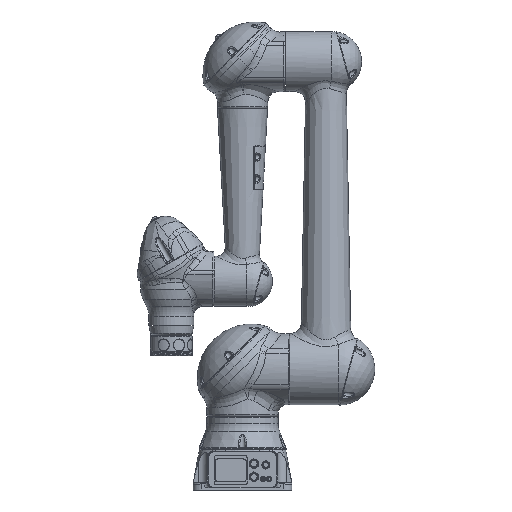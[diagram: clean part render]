
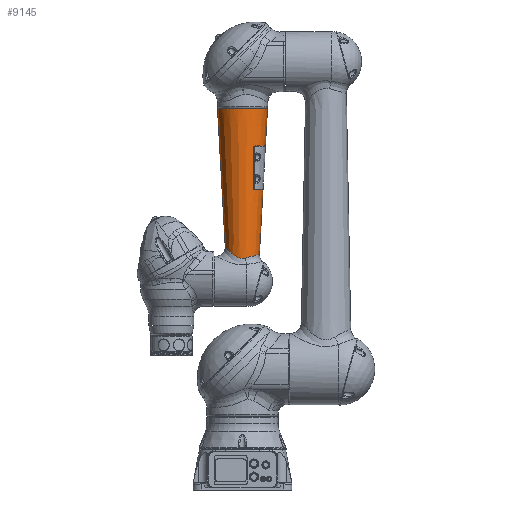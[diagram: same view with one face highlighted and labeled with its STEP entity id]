
A CAD part, left-side view. The second image highlights one B-rep face of the part: STEP entity #9145.
In plain terms, the highlighted conical face has half-angle 3.204 degrees and reference radius 57.382 mm.
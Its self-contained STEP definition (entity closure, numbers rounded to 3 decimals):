
#4328=CONICAL_SURFACE('',#37527,57.382,3.204);
#4438=(
BOUNDED_CURVE()
B_SPLINE_CURVE(3,(#89848,#89849,#89850,#89851,#89852,#89853,#89854,#89855,
#89856,#89857,#89858,#89859,#89860,#89861,#89862,#89863,#89864,#89865,#89866,
#89867,#89868,#89869,#89870,#89871,#89872,#89873,#89874,#89875,#89876,#89877,
#89878),.UNSPECIFIED.,.F.,.F.)
B_SPLINE_CURVE_WITH_KNOTS((4,1,1,1,1,1,1,1,1,1,1,1,1,1,1,1,1,1,1,1,1,1,
1,1,1,1,1,1,4),(0.,0.031,0.063,0.095,0.129,
0.164,0.202,0.241,0.284,0.329,
0.378,0.43,0.482,0.534,0.581,
0.624,0.662,0.696,0.726,0.753,
0.779,0.805,0.831,0.858,0.884,
0.91,0.937,0.967,1.),.UNSPECIFIED.)
CURVE()
GEOMETRIC_REPRESENTATION_ITEM()
RATIONAL_B_SPLINE_CURVE((1.185,1.185,1.185,
1.185,1.185,1.185,1.185,1.185,
1.185,1.185,1.185,1.185,1.185,
1.185,1.185,1.185,1.185,1.185,
1.185,1.185,1.185,1.185,1.185,
1.185,1.185,1.185,1.185,1.185,
1.185,1.185,1.185))
REPRESENTATION_ITEM('')
);
#6458=LINE('',#96099,#7565);
#6459=LINE('',#96100,#7566);
#6460=LINE('',#96104,#7567);
#7565=VECTOR('',#43291,1.);
#7566=VECTOR('',#43292,1.);
#7567=VECTOR('',#43295,1.);
#9145=ADVANCED_FACE('SREV27',(#11824),#4328,.F.);
#11824=FACE_OUTER_BOUND('',#13901,.T.);
#13901=EDGE_LOOP('',(#22124,#22125,#22126,#22127,#22128,#22129,#22130,#22131,
#22132,#22133,#22134));
#15937=CIRCLE('',#37524,52.242);
#15938=CIRCLE('',#37525,46.644);
#15939=CIRCLE('',#37526,57.);
#22124=ORIENTED_EDGE('',*,*,#32098,.T.);
#22125=ORIENTED_EDGE('',*,*,#32099,.F.);
#22126=ORIENTED_EDGE('',*,*,#32100,.F.);
#22127=ORIENTED_EDGE('',*,*,#32101,.F.);
#22128=ORIENTED_EDGE('',*,*,#32102,.F.);
#22129=ORIENTED_EDGE('',*,*,#32103,.T.);
#22130=ORIENTED_EDGE('',*,*,#31912,.F.);
#22131=ORIENTED_EDGE('',*,*,#31892,.F.);
#22132=ORIENTED_EDGE('',*,*,#32104,.F.);
#22133=ORIENTED_EDGE('',*,*,#32105,.F.);
#22134=ORIENTED_EDGE('',*,*,#32106,.T.);
#28057=VERTEX_POINT('',#89847);
#28058=VERTEX_POINT('',#89879);
#28068=VERTEX_POINT('',#90286);
#28178=VERTEX_POINT('',#96074);
#28179=VERTEX_POINT('',#96075);
#28180=VERTEX_POINT('',#96082);
#28181=VERTEX_POINT('',#96089);
#28182=VERTEX_POINT('',#96096);
#28183=VERTEX_POINT('',#96098);
#28184=VERTEX_POINT('',#96101);
#28185=VERTEX_POINT('',#96103);
#31892=EDGE_CURVE('B_SPLINE98',#28057,#28058,#4438,.T.);
#31912=EDGE_CURVE('B_SPLINE97',#28058,#28068,#35174,.T.);
#32098=EDGE_CURVE('ARC101',#28178,#28179,#15937,.T.);
#32099=EDGE_CURVE('B_SPLINE249',#28180,#28179,#35239,.T.);
#32100=EDGE_CURVE('B_SPLINE111',#28181,#28180,#35240,.T.);
#32101=EDGE_CURVE('B_SPLINE256',#28182,#28181,#35241,.T.);
#32102=EDGE_CURVE('ARC102',#28183,#28182,#15938,.T.);
#32103=EDGE_CURVE('LINE73',#28183,#28068,#6458,.T.);
#32104=EDGE_CURVE('LINE72',#28184,#28057,#6459,.T.);
#32105=EDGE_CURVE('ARC103',#28185,#28184,#15939,.T.);
#32106=EDGE_CURVE('LINE71',#28185,#28178,#6460,.T.);
#35174=B_SPLINE_CURVE_WITH_KNOTS('',3,(#90442,#90443,#90444,#90445,#90446,
#90447,#90448,#90449,#90450,#90451,#90452,#90453,#90454,#90455,#90456,#90457,
#90458,#90459,#90460),.UNSPECIFIED.,.F.,.F.,(4,1,1,1,1,1,1,1,1,1,1,1,1,
1,1,1,4),(0.,0.063,0.125,0.188,0.25,0.313,0.375,0.438,0.5,0.563,0.625,
0.688,0.75,0.813,0.875,0.938,1.),.UNSPECIFIED.);
#35239=B_SPLINE_CURVE_WITH_KNOTS('',3,(#96076,#96077,#96078,#96079,#96080,
#96081),.UNSPECIFIED.,.F.,.F.,(4,2,4),(0.,0.5,1.),.UNSPECIFIED.);
#35240=B_SPLINE_CURVE_WITH_KNOTS('',3,(#96083,#96084,#96085,#96086,#96087,
#96088),.UNSPECIFIED.,.F.,.F.,(4,1,1,4),(0.,0.333,0.667,
1.),.UNSPECIFIED.);
#35241=B_SPLINE_CURVE_WITH_KNOTS('',3,(#96090,#96091,#96092,#96093,#96094,
#96095),.UNSPECIFIED.,.F.,.F.,(4,2,4),(0.,0.5,1.),.UNSPECIFIED.);
#37524=AXIS2_PLACEMENT_3D('',#96073,#43287,#43288);
#37525=AXIS2_PLACEMENT_3D('',#96097,#43289,#43290);
#37526=AXIS2_PLACEMENT_3D('',#96102,#43293,#43294);
#37527=AXIS2_PLACEMENT_3D('',#96105,#43296,#43297);
#43287=DIRECTION('',(0.,0.,-1.));
#43288=DIRECTION('',(0.,-1.,0.));
#43289=DIRECTION('',(0.,0.,-1.));
#43290=DIRECTION('',(0.,-1.,0.));
#43291=DIRECTION('',(0.,0.056,-0.998));
#43292=DIRECTION('',(0.,-0.056,-0.998));
#43293=DIRECTION('',(0.,0.,-1.));
#43294=DIRECTION('',(0.,-1.,0.));
#43295=DIRECTION('',(0.,0.056,-0.998));
#43296=DIRECTION('',(0.,0.,1.));
#43297=DIRECTION('',(0.,-1.,0.));
#89847=CARTESIAN_POINT('',(0.,39.373,553.118));
#89848=CARTESIAN_POINT('',(0.,39.373,553.118));
#89849=CARTESIAN_POINT('',(-0.788,39.373,553.118));
#89850=CARTESIAN_POINT('',(-2.368,39.322,553.063));
#89851=CARTESIAN_POINT('',(-4.743,39.094,552.813));
#89852=CARTESIAN_POINT('',(-7.14,38.705,552.391));
#89853=CARTESIAN_POINT('',(-9.571,38.143,551.784));
#89854=CARTESIAN_POINT('',(-12.038,37.392,550.978));
#89855=CARTESIAN_POINT('',(-14.542,36.433,549.959));
#89856=CARTESIAN_POINT('',(-17.075,35.243,548.709));
#89857=CARTESIAN_POINT('',(-19.622,33.798,547.219));
#89858=CARTESIAN_POINT('',(-22.162,32.076,545.481));
#89859=CARTESIAN_POINT('',(-24.658,30.062,543.507));
#89860=CARTESIAN_POINT('',(-27.043,27.771,541.346));
#89861=CARTESIAN_POINT('',(-29.225,25.27,539.105));
#89862=CARTESIAN_POINT('',(-31.121,22.681,536.928));
#89863=CARTESIAN_POINT('',(-32.688,20.134,534.949));
#89864=CARTESIAN_POINT('',(-33.938,17.727,533.241));
#89865=CARTESIAN_POINT('',(-34.915,15.506,531.818));
#89866=CARTESIAN_POINT('',(-35.675,13.473,530.654));
#89867=CARTESIAN_POINT('',(-36.267,11.603,529.71));
#89868=CARTESIAN_POINT('',(-36.736,9.848,528.938));
#89869=CARTESIAN_POINT('',(-37.113,8.146,528.299));
#89870=CARTESIAN_POINT('',(-37.417,6.444,527.775));
#89871=CARTESIAN_POINT('',(-37.651,4.715,527.363));
#89872=CARTESIAN_POINT('',(-37.813,2.963,527.074));
#89873=CARTESIAN_POINT('',(-37.901,1.205,526.916));
#89874=CARTESIAN_POINT('',(-37.915,-0.575,526.891));
#89875=CARTESIAN_POINT('',(-37.849,-2.431,527.008));
#89876=CARTESIAN_POINT('',(-37.687,-4.438,527.299));
#89877=CARTESIAN_POINT('',(-37.503,-5.826,527.623));
#89878=CARTESIAN_POINT('',(-37.387,-6.553,527.825));
#89879=CARTESIAN_POINT('',(-37.387,-6.553,527.825));
#90286=CARTESIAN_POINT('',(0.,-38.416,536.017));
#90442=CARTESIAN_POINT('',(-37.387,-6.553,527.825));
#90443=CARTESIAN_POINT('',(-37.208,-7.674,528.136));
#90444=CARTESIAN_POINT('',(-36.75,-9.898,528.747));
#90445=CARTESIAN_POINT('',(-35.767,-13.152,529.627));
#90446=CARTESIAN_POINT('',(-34.5,-16.295,530.463));
#90447=CARTESIAN_POINT('',(-32.962,-19.304,531.251));
#90448=CARTESIAN_POINT('',(-31.167,-22.156,531.988));
#90449=CARTESIAN_POINT('',(-29.132,-24.829,532.671));
#90450=CARTESIAN_POINT('',(-26.875,-27.305,533.295));
#90451=CARTESIAN_POINT('',(-24.414,-29.566,533.86));
#90452=CARTESIAN_POINT('',(-21.771,-31.597,534.362));
#90453=CARTESIAN_POINT('',(-18.966,-33.384,534.8));
#90454=CARTESIAN_POINT('',(-16.021,-34.916,535.174));
#90455=CARTESIAN_POINT('',(-12.958,-36.183,535.48));
#90456=CARTESIAN_POINT('',(-9.802,-37.176,535.72));
#90457=CARTESIAN_POINT('',(-6.574,-37.89,535.891));
#90458=CARTESIAN_POINT('',(-3.299,-38.32,535.994));
#90459=CARTESIAN_POINT('',(-1.099,-38.416,536.017));
#90460=CARTESIAN_POINT('',(0.,-38.416,536.017));
#96073=CARTESIAN_POINT('',(0.,0.,783.));
#96074=CARTESIAN_POINT('',(0.,-52.242,783.));
#96075=CARTESIAN_POINT('',(-42.769,-30.,783.));
#96076=CARTESIAN_POINT('',(-45.553,-25.,778.));
#96077=CARTESIAN_POINT('',(-45.644,-25.,779.428));
#96078=CARTESIAN_POINT('',(-45.38,-25.656,780.806));
#96079=CARTESIAN_POINT('',(-44.337,-27.608,782.585));
#96080=CARTESIAN_POINT('',(-43.588,-28.833,783.));
#96081=CARTESIAN_POINT('',(-42.769,-30.,783.));
#96082=CARTESIAN_POINT('',(-45.553,-25.,778.));
#96083=CARTESIAN_POINT('',(-39.709,-25.,688.));
#96084=CARTESIAN_POINT('',(-40.325,-25.,697.306));
#96085=CARTESIAN_POINT('',(-41.579,-25.,716.38));
#96086=CARTESIAN_POINT('',(-43.524,-25.,746.345));
#96087=CARTESIAN_POINT('',(-44.869,-25.,767.291));
#96088=CARTESIAN_POINT('',(-45.553,-25.,778.));
#96089=CARTESIAN_POINT('',(-39.709,-25.,688.));
#96090=CARTESIAN_POINT('',(-35.716,-30.,683.));
#96091=CARTESIAN_POINT('',(-36.683,-28.849,683.));
#96092=CARTESIAN_POINT('',(-37.599,-27.668,683.389));
#96093=CARTESIAN_POINT('',(-39.078,-25.712,685.117));
#96094=CARTESIAN_POINT('',(-39.609,-25.,686.49));
#96095=CARTESIAN_POINT('',(-39.709,-25.,688.));
#96096=CARTESIAN_POINT('',(-35.716,-30.,683.));
#96097=CARTESIAN_POINT('',(0.,0.,683.));
#96098=CARTESIAN_POINT('',(0.,-46.644,683.));
#96099=CARTESIAN_POINT('',(0.,-46.644,683.));
#96100=CARTESIAN_POINT('',(0.,57.,868.));
#96101=CARTESIAN_POINT('',(0.,57.,868.));
#96102=CARTESIAN_POINT('',(0.,0.,868.));
#96103=CARTESIAN_POINT('',(0.,-57.,868.));
#96104=CARTESIAN_POINT('',(0.,-57.,868.));
#96105=CARTESIAN_POINT('',(0.,0.,874.822));
